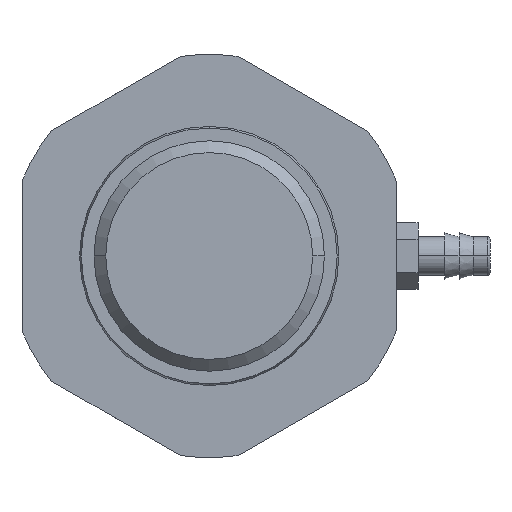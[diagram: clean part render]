
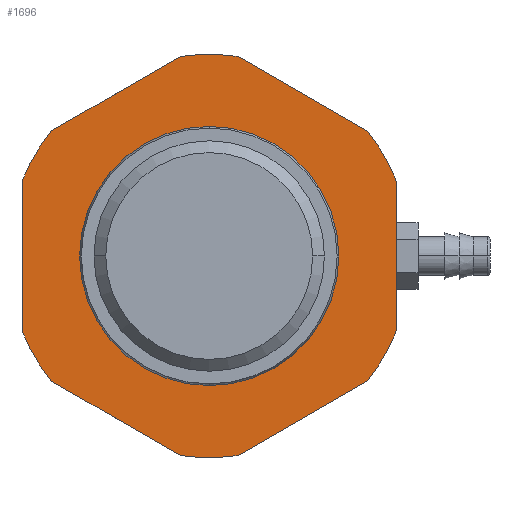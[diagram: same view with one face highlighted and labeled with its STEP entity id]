
A CAD part, left-side view. The second image highlights one B-rep face of the part: STEP entity #1696.
In plain terms, the highlighted planar face has unit normal (-1, 0, 0).
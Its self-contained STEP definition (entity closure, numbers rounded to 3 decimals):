
#1542=CARTESIAN_POINT('',(-3.375,0.475,0.0));
#1543=VERTEX_POINT('',#1542);
#1559=CARTESIAN_POINT('',(-3.375,-0.475,0.));
#1560=VERTEX_POINT('',#1559);
#1567=CARTESIAN_POINT('',(-3.375,0.,0.0));
#1568=DIRECTION('',(1.0,0.0,0.0));
#1569=DIRECTION('',(0.0,1.0,0.0));
#1570=AXIS2_PLACEMENT_3D('',#1567,#1568,#1569);
#1571=CIRCLE('',#1570,0.475);
#1572=EDGE_CURVE('',#1543,#1560,#1571,.T.);
#1577=CARTESIAN_POINT('',(-3.375,0.,0.0));
#1578=DIRECTION('',(-1.0,0.0,0.0));
#1579=DIRECTION('',(0.0,0.0,1.0));
#1580=AXIS2_PLACEMENT_3D('',#1577,#1578,#1579);
#1581=PLANE('',#1580);
#1582=CARTESIAN_POINT('',(-3.375,-0.125,-0.866));
#1583=VERTEX_POINT('',#1582);
#1584=CARTESIAN_POINT('',(-3.375,0.125,-0.866));
#1585=VERTEX_POINT('',#1584);
#1586=CARTESIAN_POINT('',(-3.375,0.,0.0));
#1587=DIRECTION('',(1.0,0.0,0.0));
#1588=DIRECTION('',(0.0,0.0,-1.0));
#1589=AXIS2_PLACEMENT_3D('',#1586,#1587,#1588);
#1590=CIRCLE('',#1589,0.875);
#1591=EDGE_CURVE('',#1583,#1585,#1590,.T.);
#1592=ORIENTED_EDGE('',*,*,#1591,.F.);
#1593=CARTESIAN_POINT('',(-3.375,-0.687,-0.541));
#1594=VERTEX_POINT('',#1593);
#1595=CARTESIAN_POINT('',(-3.375,-0.687,-0.541));
#1596=DIRECTION('',(0.0,0.866,-0.5));
#1597=VECTOR('',#1596,0.65);
#1598=LINE('',#1595,#1597);
#1599=EDGE_CURVE('',#1594,#1583,#1598,.T.);
#1600=ORIENTED_EDGE('',*,*,#1599,.F.);
#1601=CARTESIAN_POINT('',(-3.375,-0.812,-0.325));
#1602=VERTEX_POINT('',#1601);
#1603=CARTESIAN_POINT('',(-3.375,0.,0.0));
#1604=DIRECTION('',(1.0,0.0,0.0));
#1605=DIRECTION('',(0.0,-0.866,-0.5));
#1606=AXIS2_PLACEMENT_3D('',#1603,#1604,#1605);
#1607=CIRCLE('',#1606,0.875);
#1608=EDGE_CURVE('',#1602,#1594,#1607,.T.);
#1609=ORIENTED_EDGE('',*,*,#1608,.F.);
#1610=CARTESIAN_POINT('',(-3.375,-0.812,0.325));
#1611=VERTEX_POINT('',#1610);
#1612=CARTESIAN_POINT('',(-3.375,-0.812,0.325));
#1613=DIRECTION('',(0.0,0.0,-1.0));
#1614=VECTOR('',#1613,0.65);
#1615=LINE('',#1612,#1614);
#1616=EDGE_CURVE('',#1611,#1602,#1615,.T.);
#1617=ORIENTED_EDGE('',*,*,#1616,.F.);
#1618=CARTESIAN_POINT('',(-3.375,-0.687,0.541));
#1619=VERTEX_POINT('',#1618);
#1620=CARTESIAN_POINT('',(-3.375,0.,0.0));
#1621=DIRECTION('',(1.0,0.0,0.0));
#1622=DIRECTION('',(0.0,-0.866,0.5));
#1623=AXIS2_PLACEMENT_3D('',#1620,#1621,#1622);
#1624=CIRCLE('',#1623,0.875);
#1625=EDGE_CURVE('',#1619,#1611,#1624,.T.);
#1626=ORIENTED_EDGE('',*,*,#1625,.F.);
#1627=CARTESIAN_POINT('',(-3.375,-0.125,0.866));
#1628=VERTEX_POINT('',#1627);
#1629=CARTESIAN_POINT('',(-3.375,-0.125,0.866));
#1630=DIRECTION('',(0.0,-0.866,-0.5));
#1631=VECTOR('',#1630,0.65);
#1632=LINE('',#1629,#1631);
#1633=EDGE_CURVE('',#1628,#1619,#1632,.T.);
#1634=ORIENTED_EDGE('',*,*,#1633,.F.);
#1635=CARTESIAN_POINT('',(-3.375,0.125,0.866));
#1636=VERTEX_POINT('',#1635);
#1637=CARTESIAN_POINT('',(-3.375,0.,0.0));
#1638=DIRECTION('',(1.0,0.0,0.0));
#1639=DIRECTION('',(0.0,0.0,1.0));
#1640=AXIS2_PLACEMENT_3D('',#1637,#1638,#1639);
#1641=CIRCLE('',#1640,0.875);
#1642=EDGE_CURVE('',#1636,#1628,#1641,.T.);
#1643=ORIENTED_EDGE('',*,*,#1642,.F.);
#1644=CARTESIAN_POINT('',(-3.375,0.688,0.541));
#1645=VERTEX_POINT('',#1644);
#1646=CARTESIAN_POINT('',(-3.375,0.688,0.541));
#1647=DIRECTION('',(0.0,-0.866,0.5));
#1648=VECTOR('',#1647,0.65);
#1649=LINE('',#1646,#1648);
#1650=EDGE_CURVE('',#1645,#1636,#1649,.T.);
#1651=ORIENTED_EDGE('',*,*,#1650,.F.);
#1652=CARTESIAN_POINT('',(-3.375,0.813,0.325));
#1653=VERTEX_POINT('',#1652);
#1654=CARTESIAN_POINT('',(-3.375,0.,0.0));
#1655=DIRECTION('',(1.0,0.0,0.0));
#1656=DIRECTION('',(0.0,0.866,0.5));
#1657=AXIS2_PLACEMENT_3D('',#1654,#1655,#1656);
#1658=CIRCLE('',#1657,0.875);
#1659=EDGE_CURVE('',#1653,#1645,#1658,.T.);
#1660=ORIENTED_EDGE('',*,*,#1659,.F.);
#1661=CARTESIAN_POINT('',(-3.375,0.813,-0.325));
#1662=VERTEX_POINT('',#1661);
#1663=CARTESIAN_POINT('',(-3.375,0.813,-0.325));
#1664=DIRECTION('',(0.0,0.0,1.0));
#1665=VECTOR('',#1664,0.65);
#1666=LINE('',#1663,#1665);
#1667=EDGE_CURVE('',#1662,#1653,#1666,.T.);
#1668=ORIENTED_EDGE('',*,*,#1667,.F.);
#1669=CARTESIAN_POINT('',(-3.375,0.688,-0.541));
#1670=VERTEX_POINT('',#1669);
#1671=CARTESIAN_POINT('',(-3.375,0.0,0.0));
#1672=DIRECTION('',(1.0,0.0,0.0));
#1673=DIRECTION('',(0.0,0.866,-0.5));
#1674=AXIS2_PLACEMENT_3D('',#1671,#1672,#1673);
#1675=CIRCLE('',#1674,0.875);
#1676=EDGE_CURVE('',#1670,#1662,#1675,.T.);
#1677=ORIENTED_EDGE('',*,*,#1676,.F.);
#1678=CARTESIAN_POINT('',(-3.375,0.125,-0.866));
#1679=DIRECTION('',(0.0,0.866,0.5));
#1680=VECTOR('',#1679,0.65);
#1681=LINE('',#1678,#1680);
#1682=EDGE_CURVE('',#1585,#1670,#1681,.T.);
#1683=ORIENTED_EDGE('',*,*,#1682,.F.);
#1684=EDGE_LOOP('',(#1592,#1600,#1609,#1617,#1626,#1634,#1643,#1651,#1660,#1668,#1677,#1683));
#1685=FACE_OUTER_BOUND('',#1684,.T.);
#1686=ORIENTED_EDGE('',*,*,#1572,.T.);
#1687=CARTESIAN_POINT('',(-3.375,0.,0.0));
#1688=DIRECTION('',(1.0,0.0,0.0));
#1689=DIRECTION('',(0.0,1.0,0.0));
#1690=AXIS2_PLACEMENT_3D('',#1687,#1688,#1689);
#1691=CIRCLE('',#1690,0.475);
#1692=EDGE_CURVE('',#1560,#1543,#1691,.T.);
#1693=ORIENTED_EDGE('',*,*,#1692,.T.);
#1694=EDGE_LOOP('',(#1686,#1693));
#1695=FACE_BOUND('',#1694,.T.);
#1696=ADVANCED_FACE('',(#1685,#1695),#1581,.T.);
